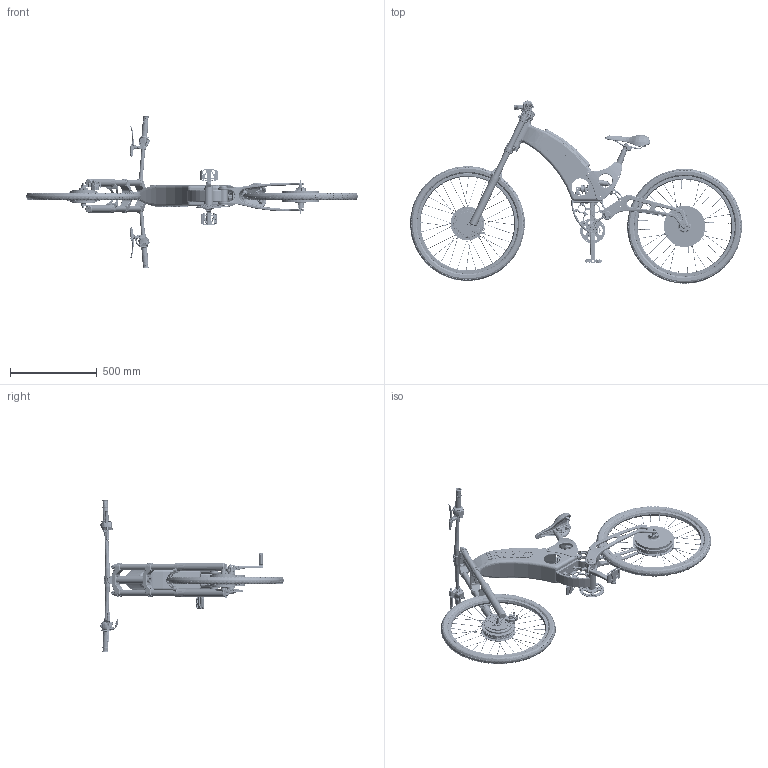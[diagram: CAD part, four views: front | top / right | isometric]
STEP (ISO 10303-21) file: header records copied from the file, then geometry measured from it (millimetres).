
FILE_DESCRIPTION((''),'2;1');
FILE_NAME('BHT-87_ASM','2014-11-22T',('hag'),(''),'PRO/ENGINEER BY PARAMETRIC TECHNOLOGY CORPORATION, 2012130','PRO/ENGINEER BY PARAMETRIC TECHNOLOGY CORPORATION, 2012130','');
FILE_SCHEMA(('CONFIG_CONTROL_DESIGN'));
Length unit declared in the file: millimetre
Products named in the file (270): CAISSON1A; PRT0180; PRT0179; FOURCHE-85; SUPPORTDDHH; FOURCH-D_ASM; BOULON-AX-FOURCHE; AXLE-100MM; AXLE-FOURCHE_ASM; PRT0143; PRT0144; PRT0145; PRT0146; PRT0147; PRT0148; PRT0149; PRT0150; PRT0151; PRT0152; PRT0165; PRT0166; PRT0167; PRT0168; PRT0169; PRT0170; PRT0171; PRT0172; ASM0022_ASM; AMORTISSEUR-6-WAYS_ASM; CIRPATTERN2; CHAMFER1; CIRPATTERN3; MIRROR1; REAR_HUB-713_ASM; AMMORTI_ASM; SOLID1; SOLID2-593; SOLID2-708; SOLID3-876; SOLID3-1051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
Assembly tree (271 placements, depth 6):
  BHT-87_ASM
    CAISSON1A
    AMMORTI_ASM
      PRT0180
      PRT0179
      FOURCH-D_ASM
        FOURCHE-85
        SUPPORTDDHH
      AXLE-FOURCHE_ASM
        BOULON-AX-FOURCHE  x2
        AXLE-100MM
      AMORTISSEUR-6-WAYS_ASM
        ASM0022_ASM
          PRT0143
          PRT0144
          PRT0145
          PRT0146
          PRT0147
          PRT0148
          PRT0149
          PRT0150
          PRT0151
          PRT0152
          PRT0165
          PRT0166
          PRT0167
          PRT0168
          PRT0169
          PRT0170
          PRT0171
          PRT0172
      REAR_HUB-713_ASM
        CIRPATTERN2
        CHAMFER1
        CIRPATTERN3
        MIRROR1
    PF30_BB_ASM
      SOLID1
      SOLID2-593
      SOLID2-708
      SOLID3-876
      SOLID3-1051
      SOLID4-1159
      SOLID4-1274
    BATTERY-BOX86
    BATTERY-BOX-COVER86
    SIEGE86_ASM
      SIEGE86AA
      SIEGE86A
      SIEGE-G
    SEDLO_ASM
      MANIFOLD_SOLID_BREP_18317
      MANIFOLD_SOLID_BREP_18318
      MANIFOLD_SOLID_BREP_18319
      MANIFOLD_SOLID_BREP_18320
      MANIFOLD_SOLID_BREP_18321
      MANIFOLD_SOLID_BREP_18322
      MANIFOLD_SOLID_BREP_18323
      MANIFOLD_SOLID_BREP_18324
      MANIFOLD_SOLID_BREP_18325
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Bounding box: 1913.14 x 1057.2 x 879.13 mm (x, y, z)
Volume: 12234014.9 mm3; surface area: 4909337.7 mm2
Topology: 351 solids, 370 shells, 21866 faces, 58024 edges, 37527 vertices
Faces by surface type: plane 8663, cylinder 6369, bspline 2695, torus 1893, cone 1207, extrusion 663, sphere 332, revolution 44
Entity records: 1113560 total; most frequent: CARTESIAN_POINT 602007, ORIENTED_EDGE 112688, DIRECTION 95497, EDGE_CURVE 56381, VERTEX_POINT 36801, AXIS2_PLACEMENT_3D 36672, EDGE_LOOP 23767, VECTOR 22109
